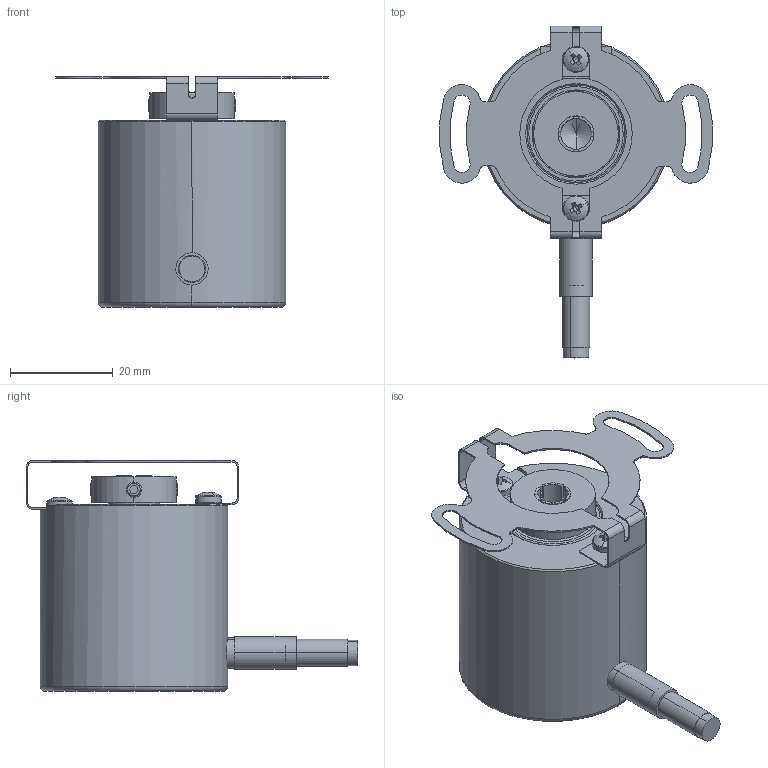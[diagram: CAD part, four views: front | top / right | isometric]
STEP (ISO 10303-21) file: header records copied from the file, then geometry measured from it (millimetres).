
FILE_DESCRIPTION (( 'STEP AP203' ), '1' );
FILE_NAME ('E36HM-BISS-212##.STEP', '2023-08-25T12:14:37', ( '' ), ( '' ), 'SwSTEP 2.0', 'SolidWorks 2021', '' );
FILE_SCHEMA (( 'CONFIG_CONTROL_DESIGN' ));
Length unit declared in the file: millimetre
Products named in the file (1): E36HM-BISS-212##
Bounding box: 53.1 x 64.6 x 44.97 mm (x, y, z)
Volume: 39782.3 mm3; surface area: 11708 mm2
Topology: 10 solids, 10 shells, 359 faces, 891 edges, 547 vertices
Faces by surface type: plane 165, cylinder 121, cone 55, torus 10, sphere 4, bspline 4
Entity records: 11690 total; most frequent: CARTESIAN_POINT 2993, DIRECTION 1890, ORIENTED_EDGE 1754, EDGE_CURVE 877, AXIS2_PLACEMENT_3D 723, VERTEX_POINT 547, LINE 444, VECTOR 444
